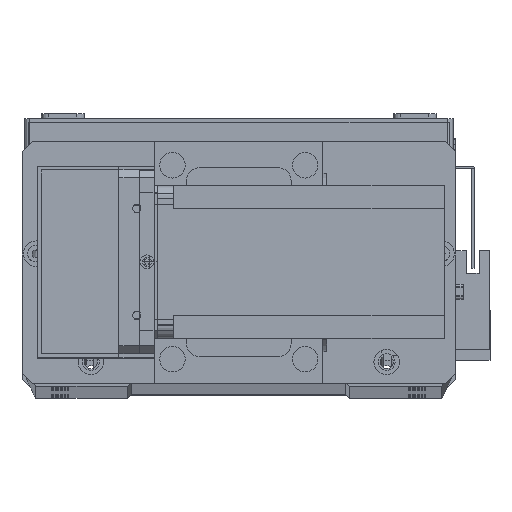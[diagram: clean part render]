
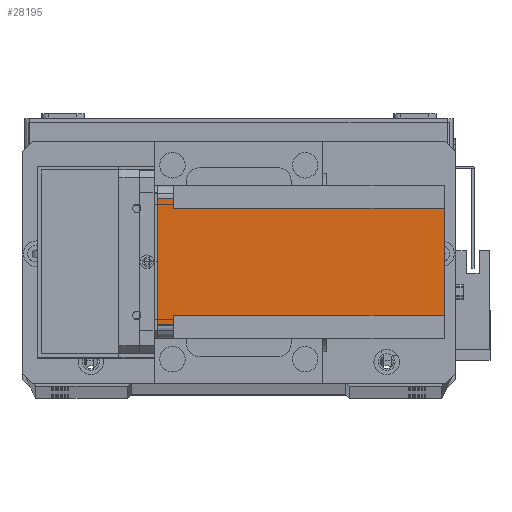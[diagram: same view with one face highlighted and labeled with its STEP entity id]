
A CAD part, top view. The second image highlights one B-rep face of the part: STEP entity #28195.
In plain terms, the highlighted planar face has unit normal (0, 0, 1) as drawn and (-1, 0, 0) by its records, which use the part's own axes.
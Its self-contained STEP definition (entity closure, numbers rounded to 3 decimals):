
#262 = CARTESIAN_POINT ( 'NONE',  ( 0., 60., -6.5 ) ) ;
#1126 = ORIENTED_EDGE ( 'NONE', *, *, #9808, .F. ) ;
#1272 = CARTESIAN_POINT ( 'NONE',  ( 0., 9., -112.5 ) ) ;
#1420 = CARTESIAN_POINT ( 'NONE',  ( 0., 9., -6.5 ) ) ;
#2027 = VERTEX_POINT ( 'NONE', #16130 ) ;
#2271 = CARTESIAN_POINT ( 'NONE',  ( 0., 9., -112.5 ) ) ;
#2355 = ORIENTED_EDGE ( 'NONE', *, *, #24993, .F. ) ;
#2374 = VERTEX_POINT ( 'NONE', #32531 ) ;
#2514 = DIRECTION ( 'NONE',  ( 0., 0., 1. ) ) ;
#3430 = VECTOR ( 'NONE', #15421, 1000. ) ;
#4308 = VERTEX_POINT ( 'NONE', #7968 ) ;
#5028 = FACE_OUTER_BOUND ( 'NONE', #29743, .T. ) ;
#5799 = CARTESIAN_POINT ( 'NONE',  ( 0., 5., 0. ) ) ;
#6473 = EDGE_CURVE ( 'NONE', #31425, #2374, #17061, .T. ) ;
#6588 = ORIENTED_EDGE ( 'NONE', *, *, #9284, .F. ) ;
#6953 = ORIENTED_EDGE ( 'NONE', *, *, #33374, .T. ) ;
#7012 = CARTESIAN_POINT ( 'NONE',  ( 0., 0., -6.5 ) ) ;
#7602 = ORIENTED_EDGE ( 'NONE', *, *, #6473, .F. ) ;
#7838 = CARTESIAN_POINT ( 'NONE',  ( 0., 51., -112.5 ) ) ;
#7861 = VECTOR ( 'NONE', #25572, 1000. ) ;
#7905 = ORIENTED_EDGE ( 'NONE', *, *, #17755, .F. ) ;
#7968 = CARTESIAN_POINT ( 'NONE',  ( 0., 51., -112.5 ) ) ;
#9284 = EDGE_CURVE ( 'NONE', #23546, #32212, #11267, .T. ) ;
#9564 = DIRECTION ( 'NONE',  ( 0., 0., -1. ) ) ;
#9808 = EDGE_CURVE ( 'NONE', #31629, #23546, #33913, .T. ) ;
#11267 = LINE ( 'NONE', #2271, #3430 ) ;
#11922 = VERTEX_POINT ( 'NONE', #5799 ) ;
#12144 = DIRECTION ( 'NONE',  ( 0., -1., 0. ) ) ;
#12152 = EDGE_CURVE ( 'NONE', #31629, #11922, #13558, .T. ) ;
#12434 = CARTESIAN_POINT ( 'NONE',  ( 0., 5., -112.5 ) ) ;
#13115 = CARTESIAN_POINT ( 'NONE',  ( 0., 0., -112.5 ) ) ;
#13558 = LINE ( 'NONE', #12434, #33761 ) ;
#13787 = VECTOR ( 'NONE', #12144, 1000. ) ;
#14010 = CARTESIAN_POINT ( 'NONE',  ( 0., 5., -6.5 ) ) ;
#14039 = ORIENTED_EDGE ( 'NONE', *, *, #12152, .T. ) ;
#14854 = LINE ( 'NONE', #30715, #7861 ) ;
#15421 = DIRECTION ( 'NONE',  ( 0., 0., -1. ) ) ;
#15436 = LINE ( 'NONE', #30592, #13787 ) ;
#15868 = DIRECTION ( 'NONE',  ( 0., -1., 0. ) ) ;
#16130 = CARTESIAN_POINT ( 'NONE',  ( 0., 55., 0. ) ) ;
#16310 = ORIENTED_EDGE ( 'NONE', *, *, #32299, .T. ) ;
#17061 = LINE ( 'NONE', #262, #24106 ) ;
#17755 = EDGE_CURVE ( 'NONE', #2027, #11922, #14854, .T. ) ;
#18711 = DIRECTION ( 'NONE',  ( 0., 1., 0. ) ) ;
#20067 = CARTESIAN_POINT ( 'NONE',  ( 0., 55., -112.5 ) ) ;
#20527 = LINE ( 'NONE', #7838, #28354 ) ;
#22808 = DIRECTION ( 'NONE',  ( 0., 1., 0. ) ) ;
#23369 = VECTOR ( 'NONE', #9564, 1000. ) ;
#23546 = VERTEX_POINT ( 'NONE', #1420 ) ;
#23730 = CARTESIAN_POINT ( 'NONE',  ( 0., 51., -6.5 ) ) ;
#23736 = PLANE ( 'NONE',  #28896 ) ;
#24106 = VECTOR ( 'NONE', #18711, 1000. ) ;
#24993 = EDGE_CURVE ( 'NONE', #4308, #31425, #20527, .T. ) ;
#25572 = DIRECTION ( 'NONE',  ( 0., -1., 0. ) ) ;
#28195 = ADVANCED_FACE ( 'NONE', ( #5028 ), #23736, .T. ) ;
#28354 = VECTOR ( 'NONE', #2514, 1000. ) ;
#28896 = AXIS2_PLACEMENT_3D ( 'NONE', #13115, #31660, #15868 ) ;
#29743 = EDGE_LOOP ( 'NONE', ( #1126, #14039, #7905, #16310, #7602, #2355, #6953, #6588 ) ) ;
#30346 = LINE ( 'NONE', #20067, #23369 ) ;
#30592 = CARTESIAN_POINT ( 'NONE',  ( 0., 0., -112.5 ) ) ;
#30715 = CARTESIAN_POINT ( 'NONE',  ( 0., 0., 0. ) ) ;
#30870 = DIRECTION ( 'NONE',  ( 0., 0., 1. ) ) ;
#31425 = VERTEX_POINT ( 'NONE', #23730 ) ;
#31451 = VECTOR ( 'NONE', #22808, 1000. ) ;
#31629 = VERTEX_POINT ( 'NONE', #14010 ) ;
#31660 = DIRECTION ( 'NONE',  ( -1., 0., 0. ) ) ;
#32212 = VERTEX_POINT ( 'NONE', #1272 ) ;
#32299 = EDGE_CURVE ( 'NONE', #2027, #2374, #30346, .T. ) ;
#32531 = CARTESIAN_POINT ( 'NONE',  ( 0., 55., -6.5 ) ) ;
#33374 = EDGE_CURVE ( 'NONE', #4308, #32212, #15436, .T. ) ;
#33761 = VECTOR ( 'NONE', #30870, 1000. ) ;
#33913 = LINE ( 'NONE', #7012, #31451 ) ;
